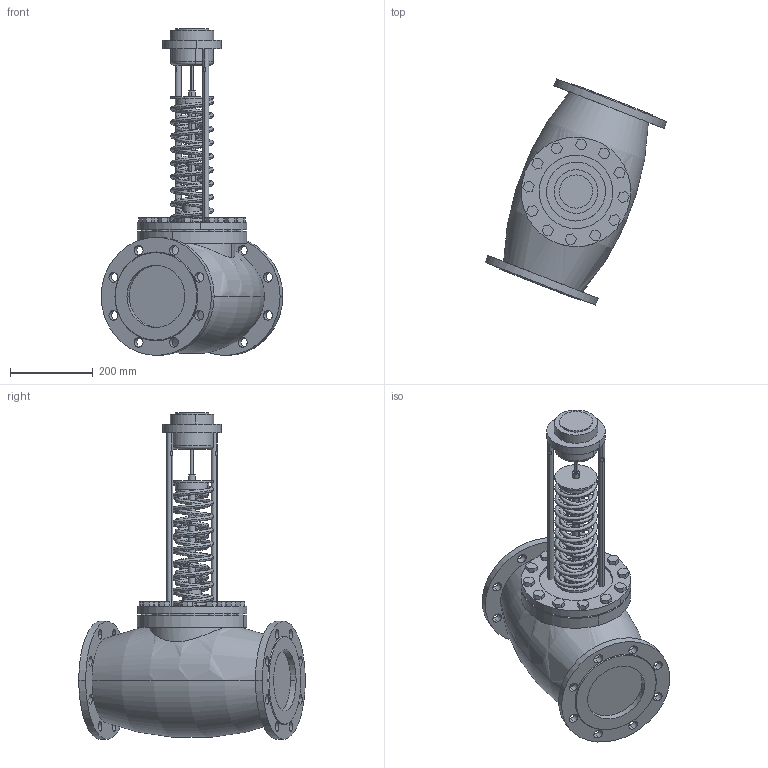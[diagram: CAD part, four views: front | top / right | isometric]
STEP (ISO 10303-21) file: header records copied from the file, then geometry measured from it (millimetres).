
FILE_DESCRIPTION (( 'STEP AP214' ), '1' );
FILE_NAME ('RDT-H-RDT-PH DN150.STEP', '2025-12-12T11:11:14', ( '' ), ( '' ), 'SwSTEP 2.0', 'SolidWorks 2023', '' );
FILE_SCHEMA (( 'AUTOMOTIVE_DESIGN' ));
Length unit declared in the file: millimetre
Products named in the file (4): ______ ___ 150_1.stp; RDT DN-150(______)_2.stp; RDT-H-RDT-PH DN150.stp; RDT-H-RDT-PH DN150
Assembly tree (3 placements, depth 3):
  RDT-H-RDT-PH DN150
    RDT-H-RDT-PH DN150.stp
      ______ ___ 150_1.stp
      RDT DN-150(______)_2.stp
Bounding box: 437.63 x 545.76 x 788 mm (x, y, z)
Volume: 28659061.9 mm3; surface area: 1066877.1 mm2
Topology: 2 solids, 2 shells, 264 faces, 654 edges, 429 vertices
Faces by surface type: plane 133, cylinder 107, cone 11, bspline 9, torus 4
Entity records: 16328 total; most frequent: CARTESIAN_POINT 9645, DIRECTION 1419, ORIENTED_EDGE 1308, EDGE_CURVE 654, AXIS2_PLACEMENT_3D 531, VERTEX_POINT 429, EDGE_LOOP 359, LINE 357
